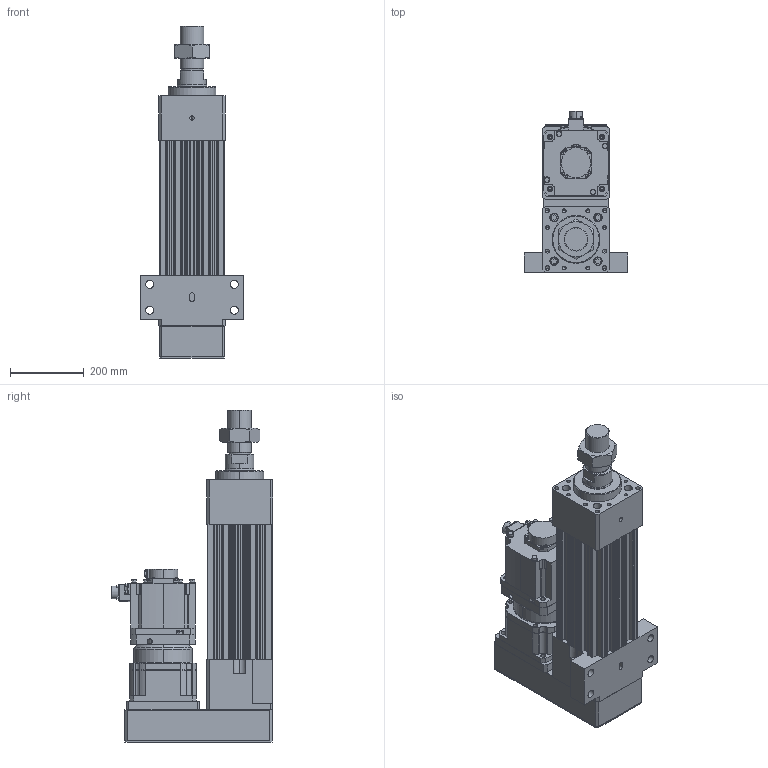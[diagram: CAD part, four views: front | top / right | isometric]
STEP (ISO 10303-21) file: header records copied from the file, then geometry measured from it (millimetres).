
FILE_DESCRIPTION (( 'STEP AP203' ), '1' );
FILE_NAME ('HES180HS-P050-W050G00-M-FFC.STEP', '2023-02-01T07:01:18', ( 'tms' ), ( '' ), 'SwSTEP 2.0', 'SolidWorks 2013', '' );
FILE_SCHEMA (( 'CONFIG_CONTROL_DESIGN' ));
Length unit declared in the file: millimetre
Products named in the file (9): AB180-003[HG-SR702B]; P1301600001; HES180-P050-G180-FFC; P0403600401; HES180HS-P050-W050G00-M-FFC; HG-SR502; M64X2.0P; HES180 ROD M ST050; AB1801
Assembly tree (8 placements, depth 3):
  HES180HS-P050-W050G00-M-FFC
    HES180-P050-G180-FFC
    HES180 ROD M ST050
    M64X2.0P
    AB180-003[HG-SR702B]
      AB1801
      P1301600001
      P0403600401
    HG-SR502
Bounding box: 280 x 438.85 x 902 mm (x, y, z)
Volume: 23356704.7 mm3; surface area: 1882803.5 mm2
Topology: 4 solids, 19 shells, 1474 faces, 3821 edges, 2463 vertices
Faces by surface type: cylinder 686, plane 553, cone 168, bspline 63, torus 4
Entity records: 53682 total; most frequent: CARTESIAN_POINT 16162, DIRECTION 7905, ORIENTED_EDGE 7498, EDGE_CURVE 3773, AXIS2_PLACEMENT_3D 2986, VERTEX_POINT 2463, LINE 1933, VECTOR 1933
